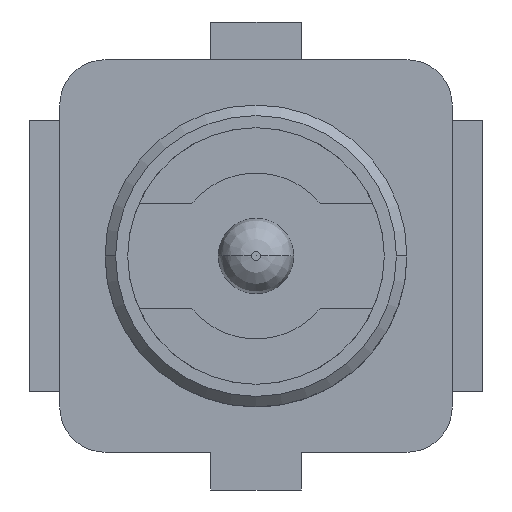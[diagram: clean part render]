
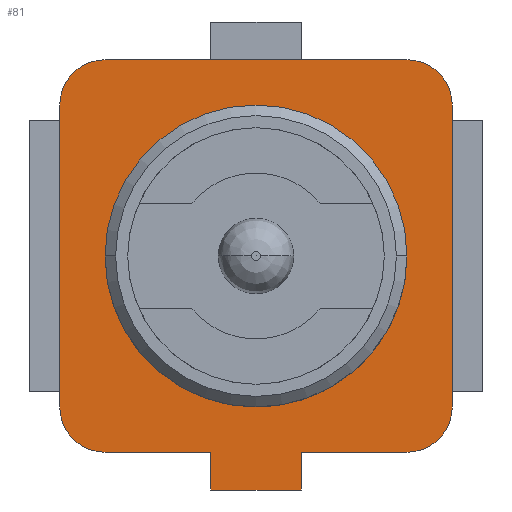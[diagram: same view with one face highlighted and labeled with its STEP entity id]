
A CAD part, front view. The second image highlights one B-rep face of the part: STEP entity #81.
In plain terms, the highlighted planar face has unit normal (0, -1, 0).
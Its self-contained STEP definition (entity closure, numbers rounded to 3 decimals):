
#81=ADVANCED_FACE('',(#184,#185),#186,.F.);
#184=FACE_OUTER_BOUND('',#342,.T.);
#185=FACE_BOUND('',#343,.T.);
#186=PLANE('',#344);
#342=EDGE_LOOP('',(#559,#560,#561,#562,#563,#564,#565,#566,#567,#568,#569,#570));
#343=EDGE_LOOP('',(#571,#572,#573));
#344=AXIS2_PLACEMENT_3D('',#574,#575,#576);
#559=ORIENTED_EDGE('',*,*,#906,.F.);
#560=ORIENTED_EDGE('',*,*,#907,.T.);
#561=ORIENTED_EDGE('',*,*,#908,.T.);
#562=ORIENTED_EDGE('',*,*,#909,.T.);
#563=ORIENTED_EDGE('',*,*,#910,.T.);
#564=ORIENTED_EDGE('',*,*,#911,.T.);
#565=ORIENTED_EDGE('',*,*,#912,.T.);
#566=ORIENTED_EDGE('',*,*,#913,.T.);
#567=ORIENTED_EDGE('',*,*,#914,.T.);
#568=ORIENTED_EDGE('',*,*,#915,.T.);
#569=ORIENTED_EDGE('',*,*,#916,.T.);
#570=ORIENTED_EDGE('',*,*,#917,.T.);
#571=ORIENTED_EDGE('',*,*,#918,.T.);
#572=ORIENTED_EDGE('',*,*,#904,.T.);
#573=ORIENTED_EDGE('',*,*,#919,.T.);
#574=CARTESIAN_POINT('',(50.92,22.146,0.899));
#575=DIRECTION('',(-0.0,1.0,0.0));
#576=DIRECTION('',(1.0,0.0,0.0));
#904=EDGE_CURVE('',#1122,#1125,#1127,.T.);
#906=EDGE_CURVE('',#1129,#1130,#1131,.T.);
#907=EDGE_CURVE('',#1129,#1132,#1133,.T.);
#908=EDGE_CURVE('',#1132,#1134,#1135,.T.);
#909=EDGE_CURVE('',#1134,#1136,#1137,.T.);
#910=EDGE_CURVE('',#1136,#1138,#1139,.T.);
#911=EDGE_CURVE('',#1138,#1140,#1141,.T.);
#912=EDGE_CURVE('',#1140,#1142,#1143,.T.);
#913=EDGE_CURVE('',#1142,#1144,#1145,.T.);
#914=EDGE_CURVE('',#1144,#1146,#1147,.T.);
#915=EDGE_CURVE('',#1146,#1148,#1149,.T.);
#916=EDGE_CURVE('',#1148,#1150,#1151,.T.);
#917=EDGE_CURVE('',#1150,#1130,#1152,.T.);
#918=EDGE_CURVE('',#1153,#1122,#1154,.T.);
#919=EDGE_CURVE('',#1125,#1153,#1155,.T.);
#1122=VERTEX_POINT('',#1550);
#1125=VERTEX_POINT('',#1554);
#1127=CIRCLE('',#1557,1.0);
#1129=VERTEX_POINT('',#1559);
#1130=VERTEX_POINT('',#1560);
#1131=LINE('',#1561,#1562);
#1132=VERTEX_POINT('',#1563);
#1133=LINE('',#1564,#1565);
#1134=VERTEX_POINT('',#1566);
#1135=CIRCLE('',#1567,0.3);
#1136=VERTEX_POINT('',#1568);
#1137=LINE('',#1569,#1570);
#1138=VERTEX_POINT('',#1571);
#1139=CIRCLE('',#1572,0.3);
#1140=VERTEX_POINT('',#1573);
#1141=LINE('',#1574,#1575);
#1142=VERTEX_POINT('',#1576);
#1143=CIRCLE('',#1577,0.3);
#1144=VERTEX_POINT('',#1578);
#1145=LINE('',#1579,#1580);
#1146=VERTEX_POINT('',#1581);
#1147=CIRCLE('',#1582,0.3);
#1148=VERTEX_POINT('',#1583);
#1149=LINE('',#1584,#1585);
#1150=VERTEX_POINT('',#1586);
#1151=LINE('',#1587,#1588);
#1152=LINE('',#1589,#1590);
#1153=VERTEX_POINT('',#1591);
#1154=CIRCLE('',#1592,1.0);
#1155=CIRCLE('',#1593,1.0);
#1550=CARTESIAN_POINT('',(54.239,22.146,1.1));
#1554=CARTESIAN_POINT('',(56.239,22.146,1.1));
#1557=AXIS2_PLACEMENT_3D('',#1873,#1874,#1875);
#1559=CARTESIAN_POINT('',(55.539,22.146,-0.2));
#1560=CARTESIAN_POINT('',(55.539,22.146,-0.45));
#1561=CARTESIAN_POINT('',(55.539,22.146,0.899));
#1562=VECTOR('',#1876,1.0);
#1563=CARTESIAN_POINT('',(56.239,22.146,-0.2));
#1564=CARTESIAN_POINT('',(50.92,22.146,-0.2));
#1565=VECTOR('',#1877,1.0);
#1566=CARTESIAN_POINT('',(56.539,22.146,0.1));
#1567=AXIS2_PLACEMENT_3D('',#1878,#1879,#1880);
#1568=CARTESIAN_POINT('',(56.539,22.146,2.1));
#1569=CARTESIAN_POINT('',(56.539,22.146,-0.2));
#1570=VECTOR('',#1881,1.0);
#1571=CARTESIAN_POINT('',(56.239,22.146,2.4));
#1572=AXIS2_PLACEMENT_3D('',#1882,#1883,#1884);
#1573=CARTESIAN_POINT('',(54.239,22.146,2.4));
#1574=CARTESIAN_POINT('',(56.539,22.146,2.4));
#1575=VECTOR('',#1885,1.0);
#1576=CARTESIAN_POINT('',(53.939,22.146,2.1));
#1577=AXIS2_PLACEMENT_3D('',#1886,#1887,#1888);
#1578=CARTESIAN_POINT('',(53.939,22.146,0.1));
#1579=CARTESIAN_POINT('',(53.939,22.146,2.4));
#1580=VECTOR('',#1889,1.0);
#1581=CARTESIAN_POINT('',(54.239,22.146,-0.2));
#1582=AXIS2_PLACEMENT_3D('',#1890,#1891,#1892);
#1583=CARTESIAN_POINT('',(54.939,22.146,-0.2));
#1584=CARTESIAN_POINT('',(50.92,22.146,-0.2));
#1585=VECTOR('',#1893,1.0);
#1586=CARTESIAN_POINT('',(54.939,22.146,-0.45));
#1587=CARTESIAN_POINT('',(54.939,22.146,0.899));
#1588=VECTOR('',#1894,1.0);
#1589=CARTESIAN_POINT('',(50.92,22.146,-0.45));
#1590=VECTOR('',#1895,1.0);
#1591=CARTESIAN_POINT('',(55.539,22.146,0.146));
#1592=AXIS2_PLACEMENT_3D('',#1896,#1897,#1898);
#1593=AXIS2_PLACEMENT_3D('',#1899,#1900,#1901);
#1873=CARTESIAN_POINT('',(55.239,22.146,1.1));
#1874=DIRECTION('',(0.0,1.0,0.0));
#1875=DIRECTION('',(-1.0,0.0,0.0));
#1876=DIRECTION('',(0.0,0.0,-1.0));
#1877=DIRECTION('',(1.0,0.0,0.0));
#1878=CARTESIAN_POINT('',(56.239,22.146,0.1));
#1879=DIRECTION('',(0.0,-1.0,0.0));
#1880=DIRECTION('',(1.0,0.0,0.0));
#1881=DIRECTION('',(0.0,0.0,1.0));
#1882=CARTESIAN_POINT('',(56.239,22.146,2.1));
#1883=DIRECTION('',(0.0,-1.0,0.0));
#1884=DIRECTION('',(1.0,0.0,0.0));
#1885=DIRECTION('',(-1.0,0.0,0.0));
#1886=CARTESIAN_POINT('',(54.239,22.146,2.1));
#1887=DIRECTION('',(0.0,-1.0,0.0));
#1888=DIRECTION('',(1.0,0.0,0.0));
#1889=DIRECTION('',(0.0,0.0,-1.0));
#1890=CARTESIAN_POINT('',(54.239,22.146,0.1));
#1891=DIRECTION('',(0.0,-1.0,0.0));
#1892=DIRECTION('',(1.0,0.0,0.0));
#1893=DIRECTION('',(1.0,0.0,0.0));
#1894=DIRECTION('',(0.0,0.0,-1.0));
#1895=DIRECTION('',(1.0,0.0,0.0));
#1896=CARTESIAN_POINT('',(55.239,22.146,1.1));
#1897=DIRECTION('',(0.0,1.0,0.0));
#1898=DIRECTION('',(-1.0,0.0,0.0));
#1899=CARTESIAN_POINT('',(55.239,22.146,1.1));
#1900=DIRECTION('',(0.0,1.0,0.0));
#1901=DIRECTION('',(-1.0,0.0,0.0));
